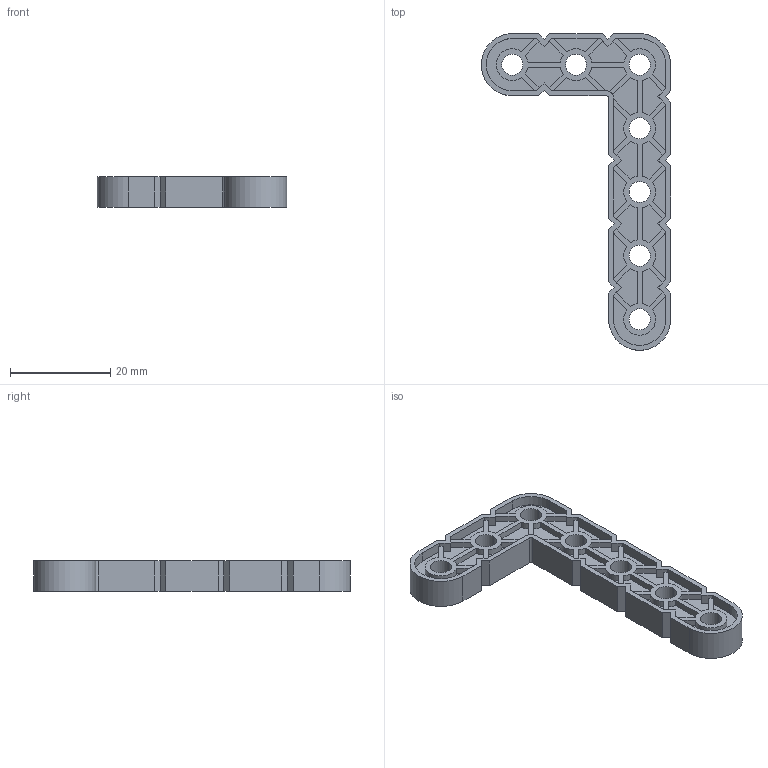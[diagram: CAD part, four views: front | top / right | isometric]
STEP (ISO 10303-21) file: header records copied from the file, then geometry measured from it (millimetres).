
FILE_DESCRIPTION (( 'STEP AP214' ), '1' );
FILE_NAME ('228-2500-150.STEP', '2021-02-18T19:52:45', ( '' ), ( '' ), 'SwSTEP 2.0', 'SolidWorks 2019', '' );
FILE_SCHEMA (( 'AUTOMOTIVE_DESIGN' ));
Length unit declared in the file: millimetre
Products named in the file (1): 228-2500-150
Bounding box: 37.8 x 63.2 x 6.1 mm (x, y, z)
Volume: 3340.6 mm3; surface area: 5194.8 mm2
Topology: 1 solids, 1 shells, 378 faces, 1122 edges, 748 vertices
Faces by surface type: plane 268, cylinder 110
Entity records: 12672 total; most frequent: CARTESIAN_POINT 2249, ORIENTED_EDGE 2244, DIRECTION 2104, EDGE_CURVE 1122, LINE 898, VECTOR 898, VERTEX_POINT 748, AXIS2_PLACEMENT_3D 603
